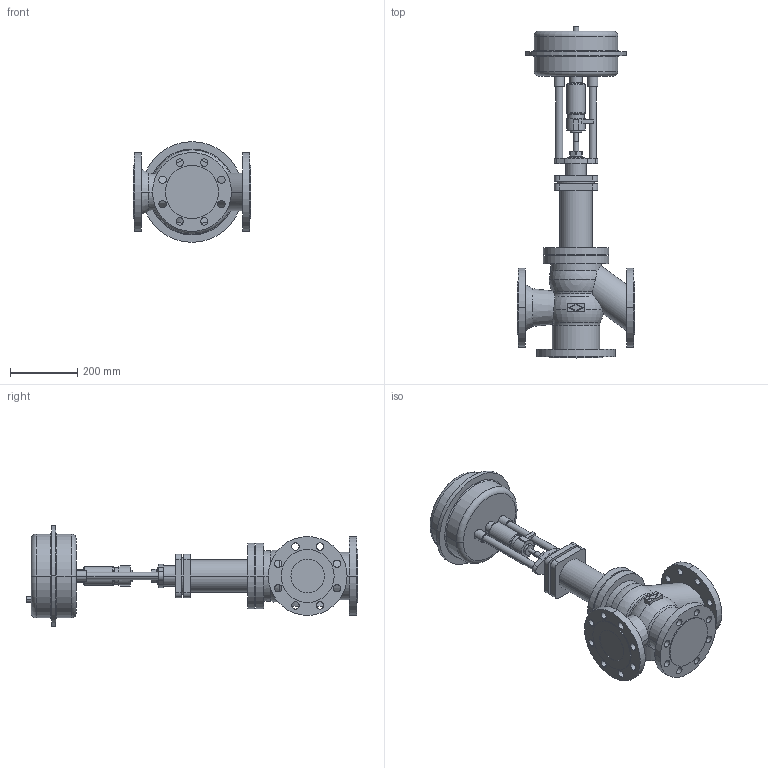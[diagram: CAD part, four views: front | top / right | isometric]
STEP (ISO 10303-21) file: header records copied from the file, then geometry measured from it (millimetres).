
FILE_DESCRIPTION(('OneSpaceDesigner STEP Export'),'2;1');
FILE_NAME('c000000760.stp','2006-09-21T 8:48:12',(''),(''),'OneSpace Designer STEP processor for AP214 (Solid Model)','OneSpace Designer 13.20A 18-Aug-2005 (C) CoCreate Software GmbH','');
FILE_SCHEMA(('AUTOMOTIVE_DESIGN { 1 0 10303 214 1 1 1 1 }'));
Length unit declared in the file: millimetre
Products named in the file (2): 1; 2
Bounding box: 350 x 989.3 x 300 mm (x, y, z)
Volume: 20370893.4 mm3; surface area: 1008655.2 mm2
Topology: 2 solids, 2 shells, 265 faces, 663 edges, 432 vertices
Faces by surface type: cylinder 136, plane 89, torus 28, cone 8, sphere 4
Entity records: 7299 total; most frequent: CARTESIAN_POINT 1506, ORIENTED_EDGE 1318, DIRECTION 1040, EDGE_CURVE 659, VERTEX_POINT 432, AXIS2_PLACEMENT_3D 384, EDGE_LOOP 347, VECTOR 272
